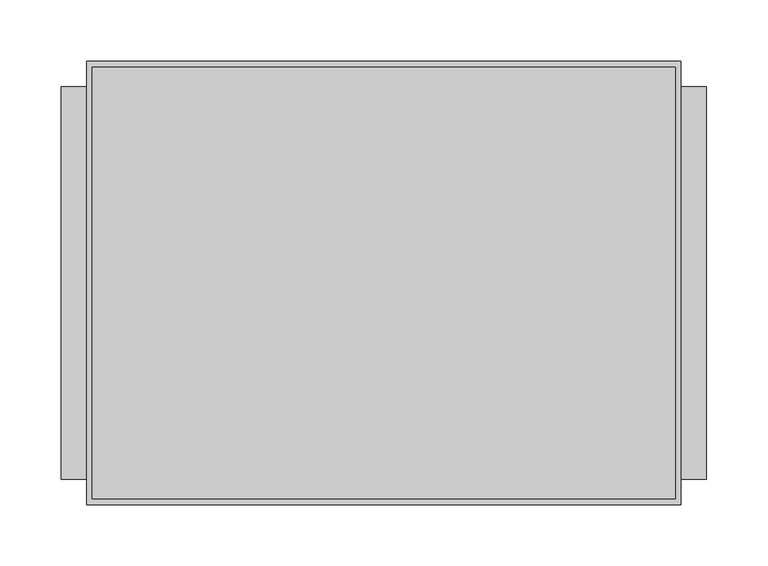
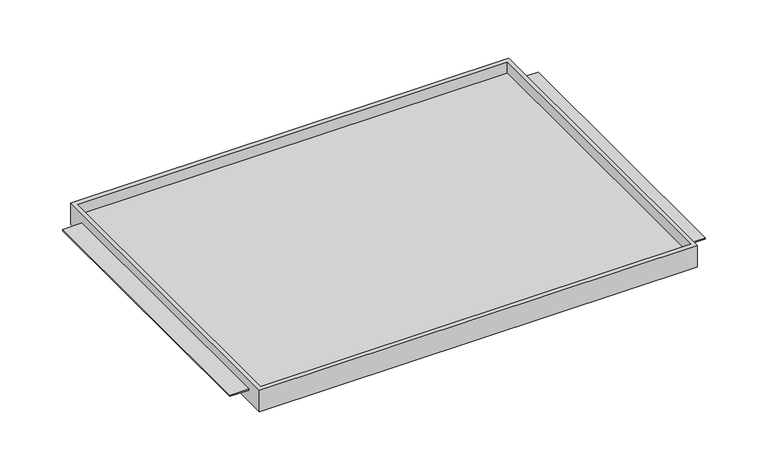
"""IFC4 building model written with IfcOpenShell, lengths in millimetres: furniture geometry."""

from ifc_helpers import new_model, si_unit, origin, place, context, project, spatial, faceted_brep, source, transform, mapped, element, save


def furniture_f0e7dcaa(model_context):
    return source(origin(), model_context, "Body", "Brep", [
        faceted_brep([(-242.7689646, -180.975, 992.98252), (242.7689646, -180.975, 992.98252), (242.7689646, -180.975, 1018.38252), (-242.7689646, -180.975, 1018.38252), (-242.7689646, 180.975, 992.98252), (-242.7689646, 180.975, 1018.38252), (242.7689646, 180.975, 1018.38252), (242.7689646, 180.975, 992.98252), (242.7689646, -160.3374879, 1007.28272), (242.7689646, 160.3374879, 1007.28272), (242.7689646, 160.3374879, 1005.68252), (242.7689646, -160.3374879, 1005.68252), (238.125, -176.2125, 1018.38252), (-238.125, -176.2125, 1018.38252), (-238.125, 175.91278, 1018.38252), (238.125, 175.91278, 1018.38252), (-242.7689646, 160.3374879, 1007.28272), (-242.7689646, -160.3374879, 1007.28272), (-242.7689646, -160.3374879, 1005.68252), (-242.7689646, 160.3374879, 1005.68252), (-238.125, -176.2125, 1005.68252), (238.125, -176.2125, 1005.68252), (238.125, 175.91278, 1005.68252), (-238.125, 175.91278, 1005.68252), (-263.525, 160.3374879, 1007.28272), (-263.525, -160.3374879, 1007.28272), (263.525, -160.3374879, 1007.28272), (263.525, 160.3374879, 1007.28272), (-263.525, -160.3374879, 1005.68252), (-263.525, 160.3374879, 1005.68252), (263.525, -160.3374879, 1005.68252), (263.525, 160.3374879, 1005.68252)], [[[0, 1, 2, 3]], [[4, 5, 6, 7]], [[1, 0, 4, 7]], [[2, 1, 7, 6], [8, 9, 10, 11]], [[3, 2, 6, 5], [12, 13, 14, 15]], [[0, 3, 5, 4], [16, 17, 18, 19]], [[20, 21, 22, 23]], [[21, 20, 13, 12]], [[22, 21, 12, 15]], [[23, 22, 15, 14]], [[20, 23, 14, 13]], [[16, 24, 25, 17]], [[26, 27, 9, 8]], [[18, 28, 29, 19]], [[30, 11, 10, 31]], [[24, 16, 19, 29]], [[25, 24, 29, 28]], [[17, 25, 28, 18]], [[27, 26, 30, 31]], [[9, 27, 31, 10]], [[26, 8, 11, 30]]]),
    ])


if __name__ == "__main__":
    model = new_model("IFC4")
    model_context = context("Model", 3, world=origin())
    ifc_project = project(units=[si_unit("LENGTHUNIT", "METRE", prefix="MILLI")], contexts=[model_context])
    site = spatial("IfcSite", under=ifc_project)
    building = spatial("IfcBuilding", under=site)
    placement = place(None, origin())
    furniture_shape = furniture_f0e7dcaa(model_context)
    element("IfcFurniture", 1, ObjectType="HermanMiller_CoStruc_CO203_CTrayShelf : 14\"D x 20\"W", at=placement, inside=building, context=model_context, shape_type="MappedRepresentation", body=[
        mapped(furniture_shape, transform((0.0, 0.0, 0.0), x_axis=(1.0, 0.0, 0.0), y_axis=(0.0, 1.0, 0.0), z_axis=(0.0, 0.0, 1.0))),
    ])
    save(model, "model.ifc")
